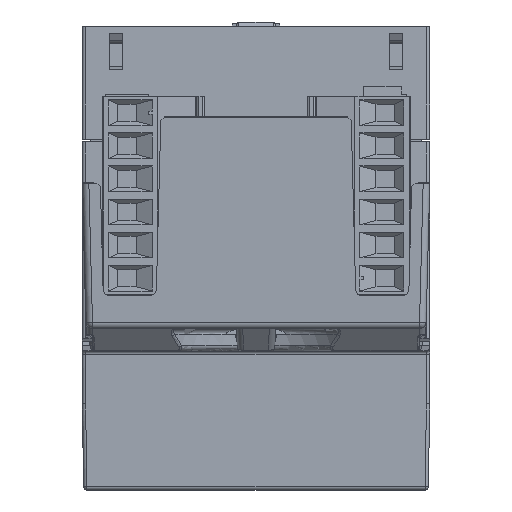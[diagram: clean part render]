
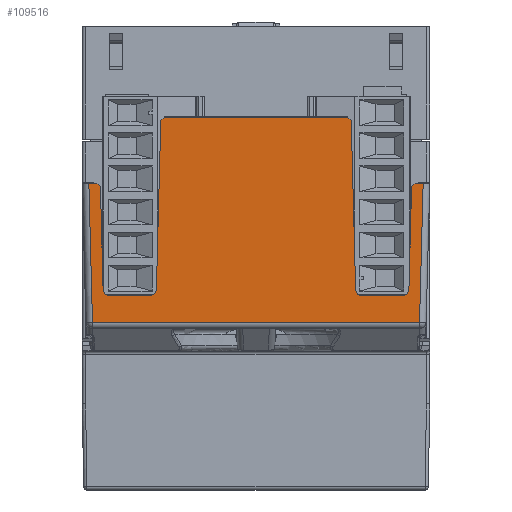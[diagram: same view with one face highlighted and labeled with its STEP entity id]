
A CAD part, front view. The second image highlights one B-rep face of the part: STEP entity #109516.
In plain terms, the highlighted planar face has unit normal (0, -0.999, -0.035).
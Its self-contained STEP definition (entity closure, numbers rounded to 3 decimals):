
#27375=DIRECTION('',(-1.,0.,0.));
#27376=VECTOR('',#27375,49.402);
#27377=CARTESIAN_POINT('',(24.701,-57.842,
-27.682));
#27378=LINE('',#27377,#27376);
#27403=DIRECTION('',(-1.,0.,0.));
#27404=VECTOR('',#27403,27.736);
#27405=CARTESIAN_POINT('',(13.868,-58.925,
3.336));
#27406=LINE('',#27405,#27404);
#27407=DIRECTION('',(-0.716,-0.024,0.697));
#27408=VECTOR('',#27407,0.716);
#27409=CARTESIAN_POINT('',(14.381,-58.907,
2.837));
#27410=LINE('',#27409,#27408);
#27411=DIRECTION('',(-0.716,0.024,-0.697));
#27412=VECTOR('',#27411,0.716);
#27413=CARTESIAN_POINT('',(24.02,-58.576,
-6.661));
#27414=LINE('',#27413,#27412);
#27415=DIRECTION('',(0.026,-0.035,0.999));
#27416=VECTOR('',#27415,21.041);
#27417=CARTESIAN_POINT('',(24.701,-57.842,
-27.682));
#27418=LINE('',#27417,#27416);
#27419=DIRECTION('',(0.026,0.035,-0.999));
#27420=VECTOR('',#27419,21.041);
#27421=CARTESIAN_POINT('',(-25.251,-58.576,
-6.661));
#27422=LINE('',#27421,#27420);
#27423=DIRECTION('',(-1.,0.,0.));
#27424=VECTOR('',#27423,1.231);
#27425=CARTESIAN_POINT('',(-24.02,-58.576,
-6.661));
#27426=LINE('',#27425,#27424);
#27427=DIRECTION('',(-0.716,-0.024,0.697));
#27428=VECTOR('',#27427,0.716);
#27429=CARTESIAN_POINT('',(-23.507,-58.558,
-7.161));
#27430=LINE('',#27429,#27428);
#27431=DIRECTION('',(-0.716,0.024,-0.697));
#27432=VECTOR('',#27431,0.716);
#27433=CARTESIAN_POINT('',(-13.868,-58.925,
3.336));
#27434=LINE('',#27433,#27432);
#28257=DIRECTION('',(1.,0.,0.));
#28258=VECTOR('',#28257,1.231);
#28259=CARTESIAN_POINT('',(24.02,-58.576,
-6.661));
#28260=LINE('',#28259,#28258);
#28277=DIRECTION('',(0.026,-0.035,0.999));
#28278=VECTOR('',#28277,15.537);
#28279=CARTESIAN_POINT('',(23.101,-58.016,
-22.683));
#28280=LINE('',#28279,#28278);
#28294=CARTESIAN_POINT('',(22.101,-57.982,
-23.657));
#28295=CARTESIAN_POINT('',(22.207,-57.982,
-23.657));
#28296=CARTESIAN_POINT('',(22.408,-57.983,
-23.624));
#28297=CARTESIAN_POINT('',(22.69,-57.988,
-23.485));
#28298=CARTESIAN_POINT('',(22.913,-57.996,
-23.267));
#28299=CARTESIAN_POINT('',(23.06,-58.005,
-22.989));
#28300=CARTESIAN_POINT('',(23.098,-58.012,
-22.789));
#28301=CARTESIAN_POINT('',(23.101,-58.016,
-22.683));
#28311=DIRECTION('',(1.,0.,0.));
#28312=VECTOR('',#28311,6.052);
#28313=CARTESIAN_POINT('',(16.049,-57.982,
-23.657));
#28314=LINE('',#28313,#28312);
#28328=CARTESIAN_POINT('',(15.049,-58.016,
-22.683));
#28329=CARTESIAN_POINT('',(15.052,-58.012,
-22.789));
#28330=CARTESIAN_POINT('',(15.09,-58.005,
-22.99));
#28331=CARTESIAN_POINT('',(15.237,-57.996,
-23.267));
#28332=CARTESIAN_POINT('',(15.46,-57.988,
-23.485));
#28333=CARTESIAN_POINT('',(15.742,-57.983,
-23.625));
#28334=CARTESIAN_POINT('',(15.943,-57.982,
-23.657));
#28335=CARTESIAN_POINT('',(16.049,-57.982,
-23.657));
#28341=DIRECTION('',(0.026,0.035,-0.999));
#28342=VECTOR('',#28341,25.544);
#28343=CARTESIAN_POINT('',(14.381,-58.907,
2.837));
#28344=LINE('',#28343,#28342);
#42103=DIRECTION('',(0.026,0.035,-0.999));
#42104=VECTOR('',#42103,15.537);
#42105=CARTESIAN_POINT('',(-23.507,-58.558,
-7.161));
#42106=LINE('',#42105,#42104);
#42128=CARTESIAN_POINT('',(-23.101,-58.016,
-22.683));
#42129=CARTESIAN_POINT('',(-23.098,-58.012,
-22.789));
#42130=CARTESIAN_POINT('',(-23.06,-58.005,
-22.99));
#42131=CARTESIAN_POINT('',(-22.913,-57.996,
-23.267));
#42132=CARTESIAN_POINT('',(-22.69,-57.988,
-23.485));
#42133=CARTESIAN_POINT('',(-22.408,-57.983,
-23.625));
#42134=CARTESIAN_POINT('',(-22.207,-57.982,
-23.657));
#42135=CARTESIAN_POINT('',(-22.101,-57.982,
-23.657));
#42141=DIRECTION('',(1.,0.,0.));
#42142=VECTOR('',#42141,6.052);
#42143=CARTESIAN_POINT('',(-22.101,-57.982,
-23.657));
#42144=LINE('',#42143,#42142);
#42162=CARTESIAN_POINT('',(-16.049,-57.982,
-23.657));
#42163=CARTESIAN_POINT('',(-15.943,-57.982,
-23.657));
#42164=CARTESIAN_POINT('',(-15.742,-57.983,
-23.624));
#42165=CARTESIAN_POINT('',(-15.46,-57.988,
-23.485));
#42166=CARTESIAN_POINT('',(-15.237,-57.996,
-23.267));
#42167=CARTESIAN_POINT('',(-15.09,-58.005,
-22.989));
#42168=CARTESIAN_POINT('',(-15.052,-58.012,
-22.789));
#42169=CARTESIAN_POINT('',(-15.049,-58.016,
-22.683));
#42179=DIRECTION('',(0.026,-0.035,0.999));
#42180=VECTOR('',#42179,25.544);
#42181=CARTESIAN_POINT('',(-15.049,-58.016,
-22.683));
#42182=LINE('',#42181,#42180);
#64132=CARTESIAN_POINT('',(13.868,-58.925,
3.336));
#64134=VERTEX_POINT('',#64132);
#64135=CARTESIAN_POINT('',(-13.868,-58.925,
3.336));
#64136=VERTEX_POINT('',#64135);
#64141=CARTESIAN_POINT('',(14.381,-58.907,
2.837));
#64142=VERTEX_POINT('',#64141);
#64695=CARTESIAN_POINT('',(-24.02,-58.576,
-6.661));
#64696=VERTEX_POINT('',#64695);
#64697=CARTESIAN_POINT('',(-25.251,-58.576,
-6.661));
#64698=VERTEX_POINT('',#64697);
#64702=CARTESIAN_POINT('',(-23.507,-58.558,
-7.161));
#64703=VERTEX_POINT('',#64702);
#64704=CARTESIAN_POINT('',(15.049,-58.016,
-22.683));
#64705=VERTEX_POINT('',#64704);
#64706=VERTEX_POINT('',#28335);
#64707=CARTESIAN_POINT('',(22.101,-57.982,
-23.657));
#64708=VERTEX_POINT('',#64707);
#64709=VERTEX_POINT('',#28301);
#64710=CARTESIAN_POINT('',(23.507,-58.558,
-7.161));
#64711=VERTEX_POINT('',#64710);
#64712=CARTESIAN_POINT('',(24.02,-58.576,
-6.661));
#64713=VERTEX_POINT('',#64712);
#64714=CARTESIAN_POINT('',(25.251,-58.576,
-6.661));
#64715=VERTEX_POINT('',#64714);
#64716=CARTESIAN_POINT('',(24.701,-57.842,
-27.682));
#64717=VERTEX_POINT('',#64716);
#64718=CARTESIAN_POINT('',(-24.701,-57.842,
-27.682));
#64719=VERTEX_POINT('',#64718);
#64720=CARTESIAN_POINT('',(-23.101,-58.016,
-22.683));
#64721=VERTEX_POINT('',#64720);
#64722=VERTEX_POINT('',#42135);
#64723=CARTESIAN_POINT('',(-16.049,-57.982,
-23.657));
#64724=VERTEX_POINT('',#64723);
#64725=VERTEX_POINT('',#42169);
#64726=CARTESIAN_POINT('',(-14.381,-58.907,
2.837));
#64727=VERTEX_POINT('',#64726);
#109471=CARTESIAN_POINT('',(-27.489,-57.808,
-28.655));
#109472=DIRECTION('',(0.,-0.999,-0.035));
#109473=DIRECTION('',(1.,0.,0.));
#109474=AXIS2_PLACEMENT_3D('',#109471,#109472,#109473);
#109475=PLANE('',#109474);
#109477=ORIENTED_EDGE('',*,*,#109476,.F.);
#109479=ORIENTED_EDGE('',*,*,#109478,.F.);
#109481=ORIENTED_EDGE('',*,*,#109480,.T.);
#109483=ORIENTED_EDGE('',*,*,#109482,.T.);
#109485=ORIENTED_EDGE('',*,*,#109484,.T.);
#109487=ORIENTED_EDGE('',*,*,#109486,.T.);
#109489=ORIENTED_EDGE('',*,*,#109488,.T.);
#109491=ORIENTED_EDGE('',*,*,#109490,.F.);
#109493=ORIENTED_EDGE('',*,*,#109492,.T.);
#109494=ORIENTED_EDGE('',*,*,#109462,.F.);
#109495=ORIENTED_EDGE('',*,*,#109440,.T.);
#109497=ORIENTED_EDGE('',*,*,#109496,.F.);
#109499=ORIENTED_EDGE('',*,*,#109498,.F.);
#109501=ORIENTED_EDGE('',*,*,#109500,.F.);
#109503=ORIENTED_EDGE('',*,*,#109502,.T.);
#109505=ORIENTED_EDGE('',*,*,#109504,.T.);
#109507=ORIENTED_EDGE('',*,*,#109506,.T.);
#109509=ORIENTED_EDGE('',*,*,#109508,.T.);
#109511=ORIENTED_EDGE('',*,*,#109510,.T.);
#109513=ORIENTED_EDGE('',*,*,#109512,.F.);
#109514=EDGE_LOOP('',(#109477,#109479,#109481,#109483,#109485,#109487,#109489,
#109491,#109493,#109494,#109495,#109497,#109499,#109501,#109503,#109505,#109507,
#109509,#109511,#109513));
#109515=FACE_OUTER_BOUND('',#109514,.F.);
#28302=B_SPLINE_CURVE_WITH_KNOTS('',3,(#28294,#28295,#28296,#28297,#28298,
#28299,#28300,#28301),.UNSPECIFIED.,.F.,.F.,(4,1,1,1,1,4),(0.,0.2,0.4,
0.6,0.8,1.),.UNSPECIFIED.);
#28336=B_SPLINE_CURVE_WITH_KNOTS('',3,(#28328,#28329,#28330,#28331,#28332,
#28333,#28334,#28335),.UNSPECIFIED.,.F.,.F.,(4,1,1,1,1,4),(0.,0.2,0.4,
0.6,0.8,1.),.UNSPECIFIED.);
#42136=B_SPLINE_CURVE_WITH_KNOTS('',3,(#42128,#42129,#42130,#42131,#42132,
#42133,#42134,#42135),.UNSPECIFIED.,.F.,.F.,(4,1,1,1,1,4),(0.,0.2,0.4,
0.6,0.8,1.),.UNSPECIFIED.);
#42170=B_SPLINE_CURVE_WITH_KNOTS('',3,(#42162,#42163,#42164,#42165,#42166,
#42167,#42168,#42169),.UNSPECIFIED.,.F.,.F.,(4,1,1,1,1,4),(0.,0.2,0.4,
0.6,0.8,1.),.UNSPECIFIED.);
#109440=EDGE_CURVE('',#64717,#64719,#27378,.T.);
#109462=EDGE_CURVE('',#64717,#64715,#27418,.T.);
#109476=EDGE_CURVE('',#64134,#64136,#27406,.T.);
#109478=EDGE_CURVE('',#64142,#64134,#27410,.T.);
#109480=EDGE_CURVE('',#64142,#64705,#28344,.T.);
#109482=EDGE_CURVE('',#64705,#64706,#28336,.T.);
#109484=EDGE_CURVE('',#64706,#64708,#28314,.T.);
#109486=EDGE_CURVE('',#64708,#64709,#28302,.T.);
#109488=EDGE_CURVE('',#64709,#64711,#28280,.T.);
#109490=EDGE_CURVE('',#64713,#64711,#27414,.T.);
#109492=EDGE_CURVE('',#64713,#64715,#28260,.T.);
#109496=EDGE_CURVE('',#64698,#64719,#27422,.T.);
#109498=EDGE_CURVE('',#64696,#64698,#27426,.T.);
#109500=EDGE_CURVE('',#64703,#64696,#27430,.T.);
#109502=EDGE_CURVE('',#64703,#64721,#42106,.T.);
#109504=EDGE_CURVE('',#64721,#64722,#42136,.T.);
#109506=EDGE_CURVE('',#64722,#64724,#42144,.T.);
#109508=EDGE_CURVE('',#64724,#64725,#42170,.T.);
#109510=EDGE_CURVE('',#64725,#64727,#42182,.T.);
#109512=EDGE_CURVE('',#64136,#64727,#27434,.T.);
#109516=ADVANCED_FACE('',(#109515),#109475,.T.);
